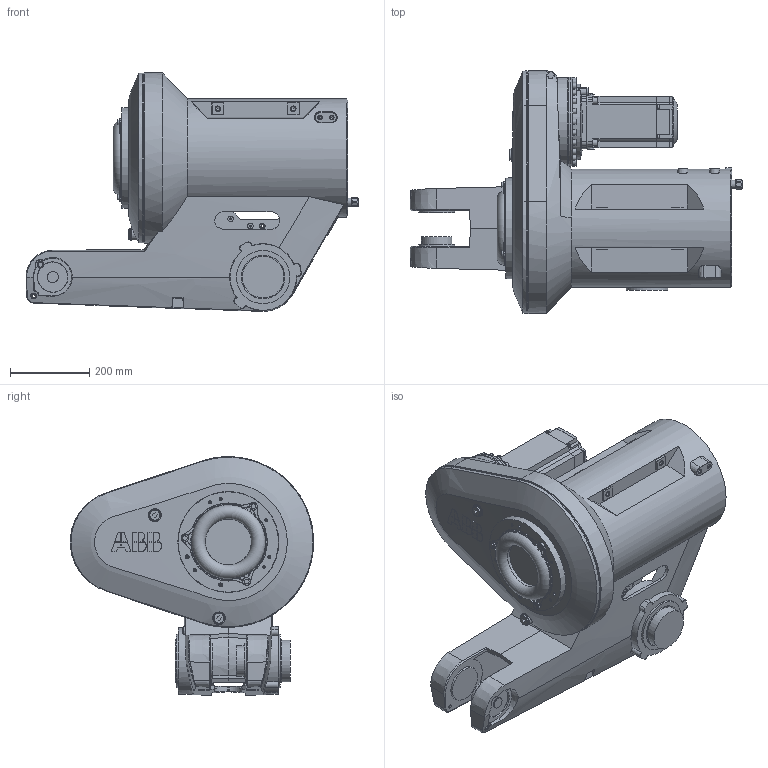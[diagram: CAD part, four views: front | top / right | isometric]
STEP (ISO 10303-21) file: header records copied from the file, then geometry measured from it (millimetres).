
FILE_DESCRIPTION (( 'STEP AP214' ), '1' );
FILE_NAME ('IRB7720_All-330_OC_00_LINK03_CAD.step', '2026-01-28T10:34:51', ( '' ), ( '' ), 'SwSTEP 2.0', 'SolidWorks 2024', '' );
FILE_SCHEMA (( 'AUTOMOTIVE_DESIGN' ));
Length unit declared in the file: millimetre
Products named in the file (1): IRB7720_All-330_OC_00_LINK03_CAD
Bounding box: 836.28 x 612.65 x 601.42 mm (x, y, z)
Volume: 59491655.7 mm3; surface area: 2311267.9 mm2
Topology: 1 solids, 1 shells, 1111 faces, 2802 edges, 1824 vertices
Faces by surface type: plane 580, cone 206, cylinder 206, bspline 87, torus 18, sphere 14
Full cylindrical faces by diameter (mm): 5 x9, 6.8 x4, 8.5 x4, 10 x6, 10.2 x4, 10.5 x2, 12 x4, 13.27 x24, 14 x4, 16 x1, 16.27 x4, 18.6 x1, 19 x3, 20 x2, 20.57 x1, 22 x2, 25 x1, 26 x1, 27 x2, 28 x3, 60 x1, 77 x1, 105 x1, 128 x2, 134 x2, 190 x1, 223 x1, 224 x1, 225 x1
Entity records: 57367 total; most frequent: CARTESIAN_POINT 20602, ORIENTED_EDGE 5072, DIRECTION 4689, EDGE_CURVE 2536, AXIS2_PLACEMENT_3D 1786, VERTEX_POINT 1754, EDGE_LOOP 1458, FACE_OUTER_BOUND 1210
